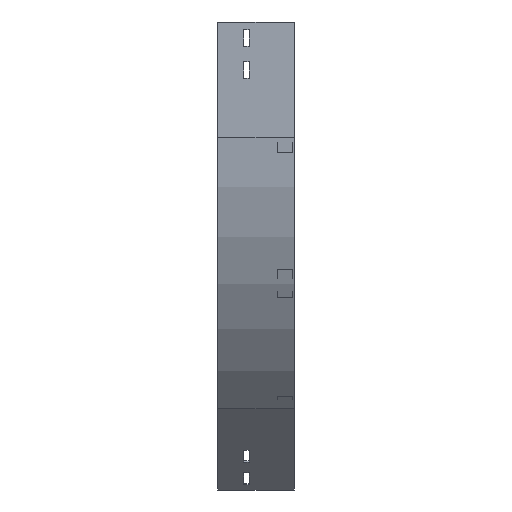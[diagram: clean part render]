
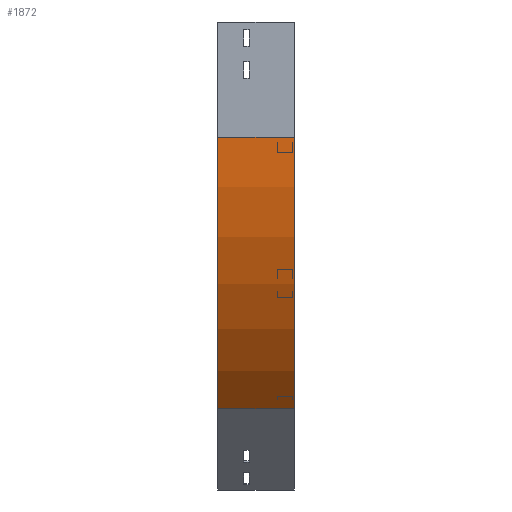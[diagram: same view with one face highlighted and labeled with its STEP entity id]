
A CAD part, left-side view. The second image highlights one B-rep face of the part: STEP entity #1872.
In plain terms, the highlighted cylindrical face has radius 500 mm (diameter 1000 mm), a partial arc.
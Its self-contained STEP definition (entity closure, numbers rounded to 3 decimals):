
#71 = DIRECTION ( 'NONE',  ( 0., -1., 0. ) ) ;
#326 = VERTEX_POINT ( 'NONE', #1056 ) ;
#329 = ORIENTED_EDGE ( 'NONE', *, *, #577, .T. ) ;
#338 = AXIS2_PLACEMENT_3D ( 'NONE', #621, #3604, #869 ) ;
#359 = LINE ( 'NONE', #3311, #2150 ) ;
#577 = EDGE_CURVE ( 'NONE', #988, #2061, #1608, .T. ) ;
#621 = CARTESIAN_POINT ( 'NONE',  ( 500., 0., -150. ) ) ;
#702 = DIRECTION ( 'NONE',  ( -1., 0., 0. ) ) ;
#782 = CARTESIAN_POINT ( 'NONE',  ( 146.447, 0., -503.553 ) ) ;
#869 = DIRECTION ( 'NONE',  ( 0., 0., -1. ) ) ;
#893 = DIRECTION ( 'NONE',  ( 0., -1., 0. ) ) ;
#983 = ORIENTED_EDGE ( 'NONE', *, *, #1571, .F. ) ;
#988 = VERTEX_POINT ( 'NONE', #2603 ) ;
#1056 = CARTESIAN_POINT ( 'NONE',  ( 0., 0., -150. ) ) ;
#1059 = CARTESIAN_POINT ( 'NONE',  ( 146.447, 100., -503.553 ) ) ;
#1118 = DIRECTION ( 'NONE',  ( 0., -1., 0. ) ) ;
#1438 = ORIENTED_EDGE ( 'NONE', *, *, #3310, .F. ) ;
#1571 = EDGE_CURVE ( 'NONE', #326, #1838, #2708, .T. ) ;
#1608 = CIRCLE ( 'NONE', #2638, 500. ) ;
#1838 = VERTEX_POINT ( 'NONE', #782 ) ;
#1872 = ADVANCED_FACE ( 'NONE', ( #3252 ), #2662, .T. ) ;
#1885 = ORIENTED_EDGE ( 'NONE', *, *, #2741, .T. ) ;
#2036 = CARTESIAN_POINT ( 'NONE',  ( 500., 0., -150. ) ) ;
#2061 = VERTEX_POINT ( 'NONE', #1059 ) ;
#2150 = VECTOR ( 'NONE', #893, 1000. ) ;
#2282 = DIRECTION ( 'NONE',  ( 0., -1., 0. ) ) ;
#2398 = EDGE_LOOP ( 'NONE', ( #983, #1438, #329, #1885 ) ) ;
#2401 = AXIS2_PLACEMENT_3D ( 'NONE', #2036, #1118, #2671 ) ;
#2603 = CARTESIAN_POINT ( 'NONE',  ( 0., 100., -150. ) ) ;
#2638 = AXIS2_PLACEMENT_3D ( 'NONE', #2751, #71, #702 ) ;
#2662 = CYLINDRICAL_SURFACE ( 'NONE', #338, 500. ) ;
#2671 = DIRECTION ( 'NONE',  ( -1., 0., 0. ) ) ;
#2708 = CIRCLE ( 'NONE', #2401, 500. ) ;
#2741 = EDGE_CURVE ( 'NONE', #2061, #1838, #359, .T. ) ;
#2751 = CARTESIAN_POINT ( 'NONE',  ( 500., 100., -150. ) ) ;
#2783 = VECTOR ( 'NONE', #2282, 1000. ) ;
#2815 = LINE ( 'NONE', #2847, #2783 ) ;
#2847 = CARTESIAN_POINT ( 'NONE',  ( 0., 0., -150. ) ) ;
#3252 = FACE_OUTER_BOUND ( 'NONE', #2398, .T. ) ;
#3310 = EDGE_CURVE ( 'NONE', #988, #326, #2815, .T. ) ;
#3311 = CARTESIAN_POINT ( 'NONE',  ( 146.447, 0., -503.553 ) ) ;
#3604 = DIRECTION ( 'NONE',  ( 0., -1., 0. ) ) ;
